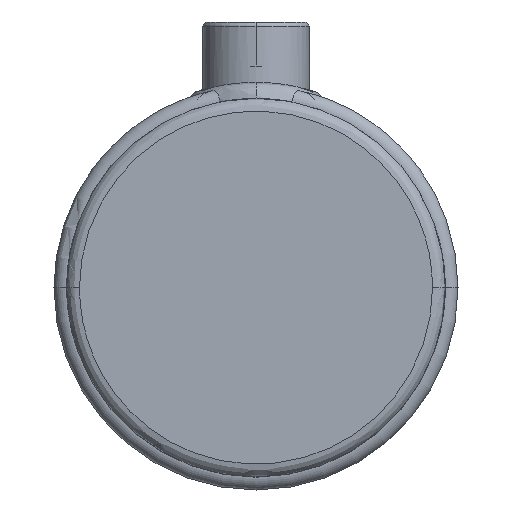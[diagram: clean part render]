
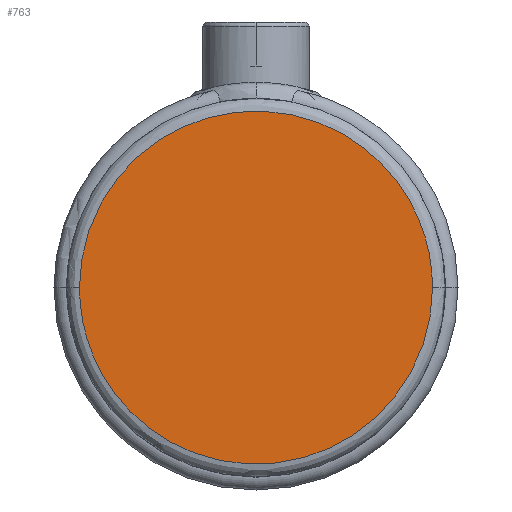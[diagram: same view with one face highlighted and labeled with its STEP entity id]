
A CAD part, top view. The second image highlights one B-rep face of the part: STEP entity #763.
In plain terms, the highlighted planar face has unit normal (0, 0, 1).
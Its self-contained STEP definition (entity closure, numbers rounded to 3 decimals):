
#116 = PLANE ( 'NONE',  #9634 ) ;
#763 = ADVANCED_FACE ( 'NONE', ( #10237 ), #116, .T. ) ;
#990 = DIRECTION ( 'NONE',  ( 0., -1., 0. ) ) ;
#1138 = CARTESIAN_POINT ( 'NONE',  ( -41.45, 0., 50. ) ) ;
#1314 =( BOUNDED_CURVE ( )  B_SPLINE_CURVE ( 3, ( #2415, #1584, #3226, #8862 ),
 .UNSPECIFIED., .F., .T. ) 
 B_SPLINE_CURVE_WITH_KNOTS ( ( 4, 4 ),
 ( 0.25, 0.75 ),
 .UNSPECIFIED. ) 
 CURVE ( )  GEOMETRIC_REPRESENTATION_ITEM ( )  RATIONAL_B_SPLINE_CURVE ( ( 1., 0.333, 0.333, 1. ) ) 
 REPRESENTATION_ITEM ( '' )  );
#1541 = EDGE_CURVE ( 'NONE', #7849, #5794, #6615, .T. ) ;
#1584 = CARTESIAN_POINT ( 'NONE',  ( 41.45, -82.9, 50. ) ) ;
#2318 = CARTESIAN_POINT ( 'NONE',  ( -41.45, 82.9, 50. ) ) ;
#2415 = CARTESIAN_POINT ( 'NONE',  ( 41.45, 0., 50. ) ) ;
#2621 = ORIENTED_EDGE ( 'NONE', *, *, #3523, .F. ) ;
#3226 = CARTESIAN_POINT ( 'NONE',  ( -41.45, -82.9, 50. ) ) ;
#3523 = EDGE_CURVE ( 'NONE', #5794, #7849, #1314, .T. ) ;
#4515 = ORIENTED_EDGE ( 'NONE', *, *, #1541, .F. ) ;
#4744 = CARTESIAN_POINT ( 'NONE',  ( 41.45, 82.9, 50. ) ) ;
#5552 = CARTESIAN_POINT ( 'NONE',  ( -41.45, 0., 50. ) ) ;
#5794 = VERTEX_POINT ( 'NONE', #5966 ) ;
#5870 = DIRECTION ( 'NONE',  ( 0., 0., 1. ) ) ;
#5966 = CARTESIAN_POINT ( 'NONE',  ( 41.45, 0., 50. ) ) ;
#6362 = CARTESIAN_POINT ( 'NONE',  ( 41.45, 0., 50. ) ) ;
#6615 =( BOUNDED_CURVE ( )  B_SPLINE_CURVE ( 3, ( #5552, #2318, #4744, #6362 ),
 .UNSPECIFIED., .F., .F. ) 
 B_SPLINE_CURVE_WITH_KNOTS ( ( 4, 4 ),
 ( 0.75, 1.25 ),
 .UNSPECIFIED. ) 
 CURVE ( )  GEOMETRIC_REPRESENTATION_ITEM ( )  RATIONAL_B_SPLINE_CURVE ( ( 1., 0.333, 0.333, 1. ) ) 
 REPRESENTATION_ITEM ( '' )  );
#7445 = CARTESIAN_POINT ( 'NONE',  ( 0., 22.225, 50. ) ) ;
#7849 = VERTEX_POINT ( 'NONE', #1138 ) ;
#8862 = CARTESIAN_POINT ( 'NONE',  ( -41.45, 0., 50. ) ) ;
#9634 = AXIS2_PLACEMENT_3D ( 'NONE', #7445, #5870, #990 ) ;
#10234 = EDGE_LOOP ( 'NONE', ( #2621, #4515 ) ) ;
#10237 = FACE_OUTER_BOUND ( 'NONE', #10234, .T. ) ;
